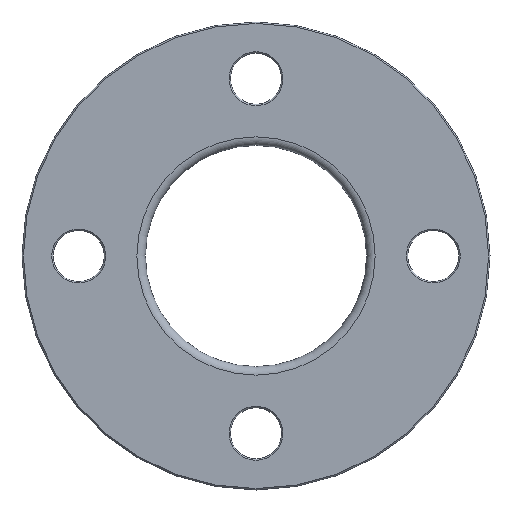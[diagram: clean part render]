
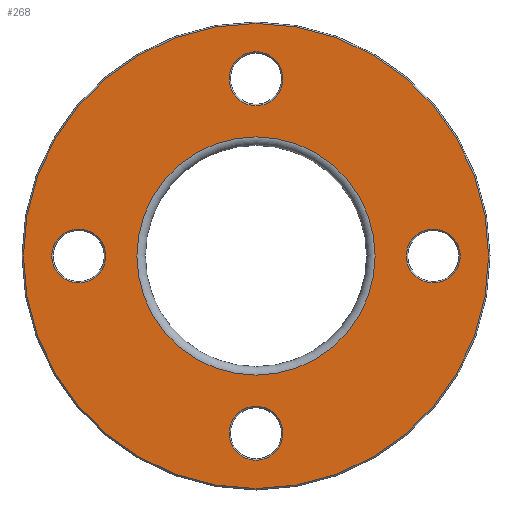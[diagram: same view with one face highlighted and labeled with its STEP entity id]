
A CAD part, front view. The second image highlights one B-rep face of the part: STEP entity #268.
In plain terms, the highlighted planar face has unit normal (0, -1, 0).
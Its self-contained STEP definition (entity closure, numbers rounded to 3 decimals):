
#23=PLANE('',#320);
#62=ORIENTED_EDGE('',*,*,#101,.T.);
#63=ORIENTED_EDGE('',*,*,#102,.T.);
#64=ORIENTED_EDGE('',*,*,#84,.T.);
#65=ORIENTED_EDGE('',*,*,#88,.T.);
#66=ORIENTED_EDGE('',*,*,#92,.T.);
#67=ORIENTED_EDGE('',*,*,#103,.T.);
#84=EDGE_CURVE('',#108,#108,#132,.T.);
#88=EDGE_CURVE('',#112,#112,#136,.T.);
#92=EDGE_CURVE('',#116,#116,#140,.T.);
#101=EDGE_CURVE('',#125,#125,#149,.F.);
#102=EDGE_CURVE('',#126,#126,#150,.T.);
#103=EDGE_CURVE('',#127,#127,#151,.T.);
#108=VERTEX_POINT('',#431);
#112=VERTEX_POINT('',#442);
#116=VERTEX_POINT('',#453);
#125=VERTEX_POINT('',#476);
#126=VERTEX_POINT('',#478);
#127=VERTEX_POINT('',#480);
#132=CIRCLE('',#293,9.5);
#136=CIRCLE('',#300,9.5);
#140=CIRCLE('',#307,9.5);
#149=CIRCLE('',#321,82.);
#150=CIRCLE('',#322,42.);
#151=CIRCLE('',#323,9.5);
#182=EDGE_LOOP('',(#62));
#183=EDGE_LOOP('',(#63));
#184=EDGE_LOOP('',(#64));
#185=EDGE_LOOP('',(#65));
#186=EDGE_LOOP('',(#66));
#187=EDGE_LOOP('',(#67));
#230=FACE_BOUND('',#182,.T.);
#231=FACE_BOUND('',#183,.T.);
#232=FACE_BOUND('',#184,.T.);
#233=FACE_BOUND('',#185,.T.);
#234=FACE_BOUND('',#186,.T.);
#235=FACE_BOUND('',#187,.T.);
#268=ADVANCED_FACE('',(#230,#231,#232,#233,#234,#235),#23,.F.);
#293=AXIS2_PLACEMENT_3D('',#430,#343,#344);
#300=AXIS2_PLACEMENT_3D('',#441,#357,#358);
#307=AXIS2_PLACEMENT_3D('',#452,#371,#372);
#320=AXIS2_PLACEMENT_3D('',#474,#397,#398);
#321=AXIS2_PLACEMENT_3D('',#475,#399,#400);
#322=AXIS2_PLACEMENT_3D('',#477,#401,#402);
#323=AXIS2_PLACEMENT_3D('',#479,#403,#404);
#343=DIRECTION('',(0.,1.,0.));
#344=DIRECTION('',(0.,0.,1.));
#357=DIRECTION('',(0.,1.,0.));
#358=DIRECTION('',(-1.,0.,0.));
#371=DIRECTION('',(0.,1.,0.));
#372=DIRECTION('',(0.,0.,-1.));
#397=DIRECTION('',(0.,1.,0.));
#398=DIRECTION('',(0.,0.,1.));
#399=DIRECTION('',(0.,1.,0.));
#400=DIRECTION('',(0.,0.,1.));
#401=DIRECTION('',(0.,1.,0.));
#402=DIRECTION('',(0.,0.,1.));
#403=DIRECTION('',(0.,1.,0.));
#404=DIRECTION('',(1.,0.,0.));
#430=CARTESIAN_POINT('',(-62.5,0.,0.));
#431=CARTESIAN_POINT('',(-62.5,0.,9.5));
#441=CARTESIAN_POINT('',(0.,0.,-62.5));
#442=CARTESIAN_POINT('',(-9.5,0.,-62.5));
#452=CARTESIAN_POINT('',(62.5,0.,0.));
#453=CARTESIAN_POINT('',(62.5,0.,-9.5));
#474=CARTESIAN_POINT('',(0.,0.,0.));
#475=CARTESIAN_POINT('',(0.,0.,0.));
#476=CARTESIAN_POINT('',(0.,0.,82.));
#477=CARTESIAN_POINT('',(0.,0.,0.));
#478=CARTESIAN_POINT('',(0.,0.,42.));
#479=CARTESIAN_POINT('',(0.,0.,62.5));
#480=CARTESIAN_POINT('',(9.5,0.,62.5));
